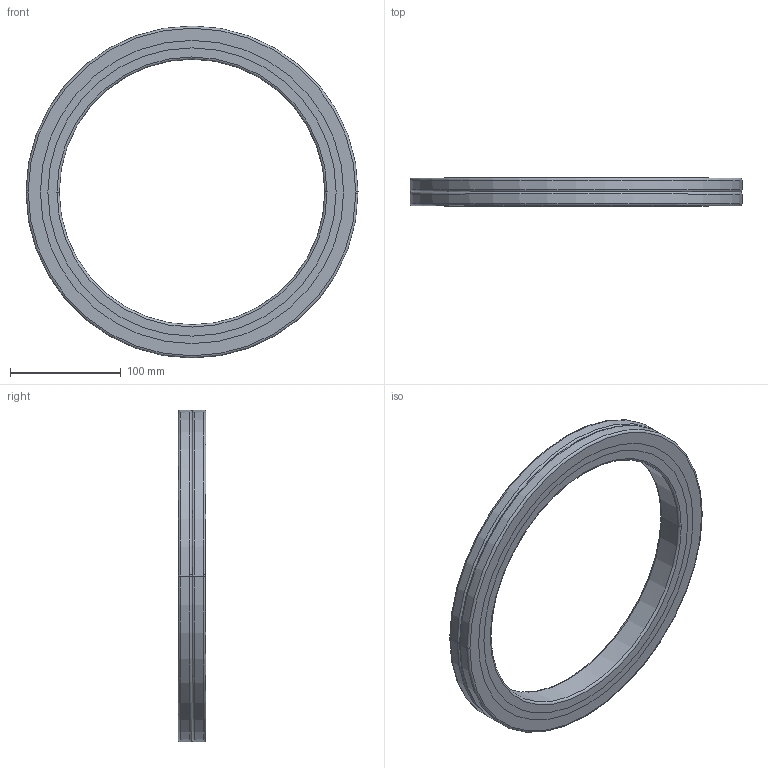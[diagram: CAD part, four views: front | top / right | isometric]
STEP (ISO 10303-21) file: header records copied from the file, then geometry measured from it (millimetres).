
FILE_DESCRIPTION(('no description'),'unknown implementation level');
FILE_NAME('CRBA24025_43.stp',' ',('HIWIN GmbH'),('CADClick - KiM GmbH - www.kimweb.de'),'unknown preprocess','ACIS','unknown authorization');
FILE_SCHEMA(('automotive_design'));
Length unit declared in the file: millimetre
Products named in the file (5): CRBA24025_1; CRBA24025_2; CRBA24025_3; CRBA24025_4; CRBA24025
Bounding box: 300 x 25 x 300 mm (x, y, z)
Volume: 517483.8 mm3; surface area: 173996.1 mm2
Topology: 5 solids, 5 shells, 54 faces, 120 edges, 76 vertices
Faces by surface type: torus 24, cylinder 20, plane 10
Entity records: 3096 total; most frequent: DIRECTION 338, STYLED_ITEM 255, PRESENTATION_STYLE_ASSIGNMENT 255, CARTESIAN_POINT 255, COLOUR_RGB 255, ORIENTED_EDGE 240, AXIS2_PLACEMENT_3D 159, EDGE_CURVE 120
